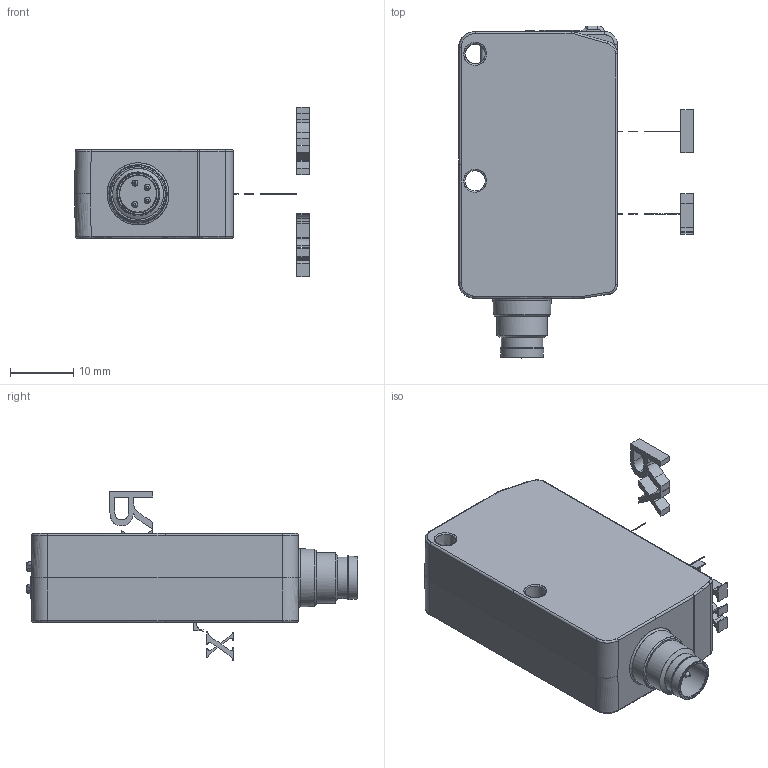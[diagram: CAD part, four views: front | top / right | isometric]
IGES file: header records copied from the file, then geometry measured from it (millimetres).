
Global section: file name: D:\igs\DSD-0141.igs; preprocessor: I-DEAS 3D IGES Translator 11; date: 20080507.162425; units: millimetre
Bounding box: 37 x 52.3 x 26.68 mm (x, y, z)
Volume: 83.7 mm3; surface area: 5122.6 mm2
Topology: 6 solids, 6 shells, 468 faces, 2309 edges, 2122 vertices
Faces by surface type: bspline 468
